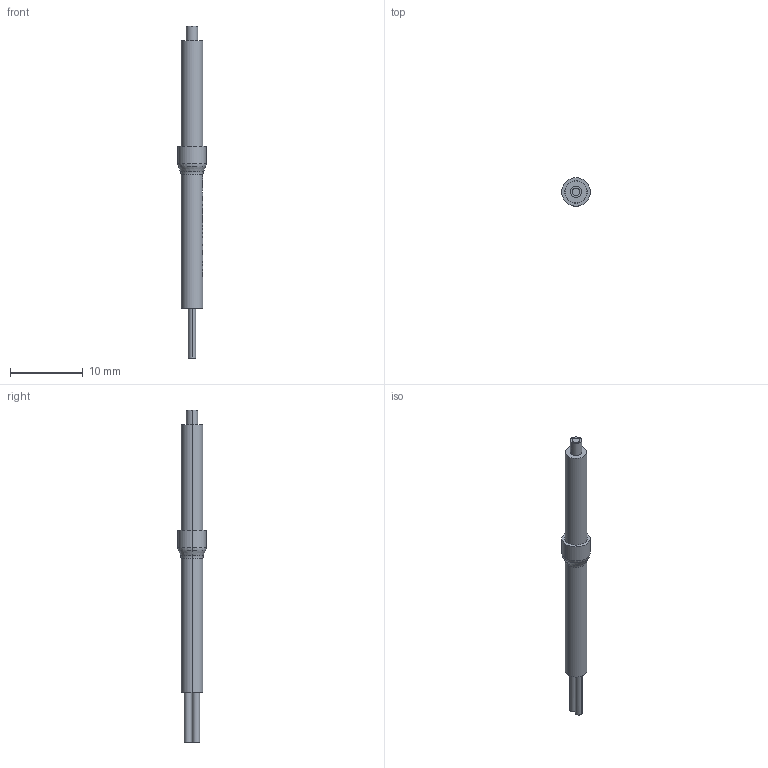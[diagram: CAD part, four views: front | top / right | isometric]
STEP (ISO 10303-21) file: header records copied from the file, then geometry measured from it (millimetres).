
FILE_DESCRIPTION (( 'STEP AP214' ), '1' );
FILE_NAME ('PD-R46.STEP', '2015-09-24T08:27:15', ( '' ), ( '' ), 'SwSTEP 2.0', 'SolidWorks 2013', '' );
FILE_SCHEMA (( 'AUTOMOTIVE_DESIGN' ));
Length unit declared in the file: millimetre
Products named in the file (1): PD-R46
Bounding box: 3.9 x 3.9 x 45.51 mm (x, y, z)
Volume: 240.5 mm3; surface area: 744.5 mm2
Topology: 4 solids, 4 shells, 207 faces, 548 edges, 360 vertices
Faces by surface type: plane 127, cylinder 39, bspline 29, torus 8, cone 4
Entity records: 10095 total; most frequent: CARTESIAN_POINT 2909, ORIENTED_EDGE 1096, DIRECTION 944, EDGE_CURVE 548, VERTEX_POINT 360, LINE 318, VECTOR 318, AXIS2_PLACEMENT_3D 313
